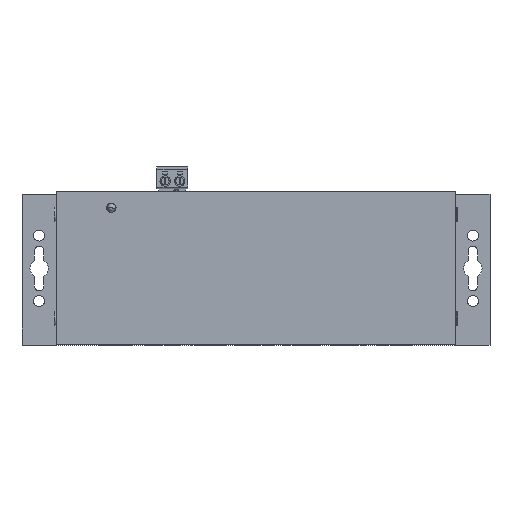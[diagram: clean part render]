
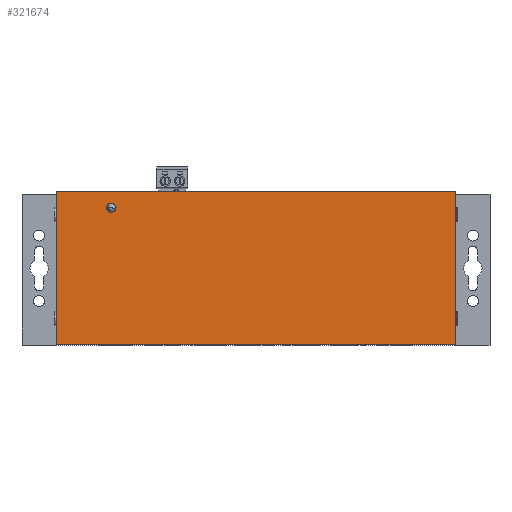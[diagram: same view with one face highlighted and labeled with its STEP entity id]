
A CAD part, top view. The second image highlights one B-rep face of the part: STEP entity #321674.
In plain terms, the highlighted planar face has unit normal (0, 0, 1).
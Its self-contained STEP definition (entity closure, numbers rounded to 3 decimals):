
#9240 = PLANE('',#9241);
#9241 = AXIS2_PLACEMENT_3D('',#9242,#9243,#9244);
#9242 = CARTESIAN_POINT('',(13.,29.602,11.952));
#9243 = DIRECTION('',(-1.,-0.,-0.));
#9244 = DIRECTION('',(0.,0.,-1.));
#280623 = PLANE('',#280624);
#280624 = AXIS2_PLACEMENT_3D('',#280625,#280626,#280627);
#280625 = CARTESIAN_POINT('',(0.,58.5,0.));
#280626 = DIRECTION('',(0.,1.,0.));
#280627 = DIRECTION('',(0.,0.,1.));
#281786 = CYLINDRICAL_SURFACE('',#281787,1.8);
#281787 = AXIS2_PLACEMENT_3D('',#281788,#281789,#281790);
#281788 = CARTESIAN_POINT('',(34.05,52.3,19.));
#281789 = DIRECTION('',(0.,0.,1.));
#281790 = DIRECTION('',(1.,0.,0.));
#281961 = PLANE('',#281962);
#281962 = AXIS2_PLACEMENT_3D('',#281963,#281964,#281965);
#281963 = CARTESIAN_POINT('',(89.2,0.,10.168));
#281964 = DIRECTION('',(-0.,-1.,-0.));
#281965 = DIRECTION('',(0.,0.,-1.));
#309637 = VERTEX_POINT('',#309638);
#309638 = CARTESIAN_POINT('',(165.4,58.5,23.2));
#309652 = PLANE('',#309653);
#309653 = AXIS2_PLACEMENT_3D('',#309654,#309655,#309656);
#309654 = CARTESIAN_POINT('',(165.4,29.602,11.952));
#309655 = DIRECTION('',(1.,0.,0.));
#309656 = DIRECTION('',(0.,0.,1.));
#309688 = VERTEX_POINT('',#309689);
#309689 = CARTESIAN_POINT('',(13.,58.5,23.2));
#309710 = EDGE_CURVE('',#309688,#309637,#309711,.T.);
#309711 = SURFACE_CURVE('',#309712,(#309716,#309723),.PCURVE_S1.);
#309712 = LINE('',#309713,#309714);
#309713 = CARTESIAN_POINT('',(0.,58.5,23.2));
#309714 = VECTOR('',#309715,1.);
#309715 = DIRECTION('',(1.,0.,0.));
#309716 = PCURVE('',#280623,#309717);
#309717 = DEFINITIONAL_REPRESENTATION('',(#309718),#309722);
#309718 = LINE('',#309719,#309720);
#309719 = CARTESIAN_POINT('',(23.2,0.));
#309720 = VECTOR('',#309721,1.);
#309721 = DIRECTION('',(0.,1.));
#309722 = ( GEOMETRIC_REPRESENTATION_CONTEXT(2) 
PARAMETRIC_REPRESENTATION_CONTEXT() REPRESENTATION_CONTEXT('2D SPACE',''
  ) );
#309723 = PCURVE('',#309724,#309729);
#309724 = PLANE('',#309725);
#309725 = AXIS2_PLACEMENT_3D('',#309726,#309727,#309728);
#309726 = CARTESIAN_POINT('',(0.,0.,23.2));
#309727 = DIRECTION('',(0.,0.,1.));
#309728 = DIRECTION('',(1.,0.,0.));
#309729 = DEFINITIONAL_REPRESENTATION('',(#309730),#309734);
#309730 = LINE('',#309731,#309732);
#309731 = CARTESIAN_POINT('',(0.,58.5));
#309732 = VECTOR('',#309733,1.);
#309733 = DIRECTION('',(1.,0.));
#309734 = ( GEOMETRIC_REPRESENTATION_CONTEXT(2) 
PARAMETRIC_REPRESENTATION_CONTEXT() REPRESENTATION_CONTEXT('2D SPACE',''
  ) );
#311741 = EDGE_CURVE('',#311742,#311742,#311744,.T.);
#311742 = VERTEX_POINT('',#311743);
#311743 = CARTESIAN_POINT('',(35.85,52.3,23.2));
#311744 = SURFACE_CURVE('',#311745,(#311750,#311757),.PCURVE_S1.);
#311745 = CIRCLE('',#311746,1.8);
#311746 = AXIS2_PLACEMENT_3D('',#311747,#311748,#311749);
#311747 = CARTESIAN_POINT('',(34.05,52.3,23.2));
#311748 = DIRECTION('',(0.,0.,1.));
#311749 = DIRECTION('',(1.,0.,0.));
#311750 = PCURVE('',#281786,#311751);
#311751 = DEFINITIONAL_REPRESENTATION('',(#311752),#311756);
#311752 = LINE('',#311753,#311754);
#311753 = CARTESIAN_POINT('',(0.,4.2));
#311754 = VECTOR('',#311755,1.);
#311755 = DIRECTION('',(1.,0.));
#311756 = ( GEOMETRIC_REPRESENTATION_CONTEXT(2) 
PARAMETRIC_REPRESENTATION_CONTEXT() REPRESENTATION_CONTEXT('2D SPACE',''
  ) );
#311757 = PCURVE('',#309724,#311758);
#311758 = DEFINITIONAL_REPRESENTATION('',(#311759),#311763);
#311759 = CIRCLE('',#311760,1.8);
#311760 = AXIS2_PLACEMENT_2D('',#311761,#311762);
#311761 = CARTESIAN_POINT('',(34.05,52.3));
#311762 = DIRECTION('',(1.,0.));
#311763 = ( GEOMETRIC_REPRESENTATION_CONTEXT(2) 
PARAMETRIC_REPRESENTATION_CONTEXT() REPRESENTATION_CONTEXT('2D SPACE',''
  ) );
#320831 = VERTEX_POINT('',#320832);
#320832 = CARTESIAN_POINT('',(165.4,0.,23.2));
#320931 = EDGE_CURVE('',#320831,#309637,#320932,.T.);
#320932 = SURFACE_CURVE('',#320933,(#320937,#320944),.PCURVE_S1.);
#320933 = LINE('',#320934,#320935);
#320934 = CARTESIAN_POINT('',(165.4,0.,23.2));
#320935 = VECTOR('',#320936,1.);
#320936 = DIRECTION('',(0.,1.,0.));
#320937 = PCURVE('',#309652,#320938);
#320938 = DEFINITIONAL_REPRESENTATION('',(#320939),#320943);
#320939 = LINE('',#320940,#320941);
#320940 = CARTESIAN_POINT('',(11.248,29.602));
#320941 = VECTOR('',#320942,1.);
#320942 = DIRECTION('',(0.,-1.));
#320943 = ( GEOMETRIC_REPRESENTATION_CONTEXT(2) 
PARAMETRIC_REPRESENTATION_CONTEXT() REPRESENTATION_CONTEXT('2D SPACE',''
  ) );
#320944 = PCURVE('',#309724,#320945);
#320945 = DEFINITIONAL_REPRESENTATION('',(#320946),#320949);
#320946 = B_SPLINE_CURVE_WITH_KNOTS('',1,(#320947,#320948),
  .UNSPECIFIED.,.F.,.F.,(2,2),(-5.85,64.35),.PIECEWISE_BEZIER_KNOTS.);
#320947 = CARTESIAN_POINT('',(165.4,-5.85));
#320948 = CARTESIAN_POINT('',(165.4,64.35));
#320949 = ( GEOMETRIC_REPRESENTATION_CONTEXT(2) 
PARAMETRIC_REPRESENTATION_CONTEXT() REPRESENTATION_CONTEXT('2D SPACE',''
  ) );
#321674 = ADVANCED_FACE('',(#321675,#321722),#309724,.T.);
#321675 = FACE_BOUND('',#321676,.T.);
#321676 = EDGE_LOOP('',(#321677,#321678,#321700,#321721));
#321677 = ORIENTED_EDGE('',*,*,#309710,.F.);
#321678 = ORIENTED_EDGE('',*,*,#321679,.F.);
#321679 = EDGE_CURVE('',#321680,#309688,#321682,.T.);
#321680 = VERTEX_POINT('',#321681);
#321681 = CARTESIAN_POINT('',(13.,0.,23.2));
#321682 = SURFACE_CURVE('',#321683,(#321687,#321693),.PCURVE_S1.);
#321683 = LINE('',#321684,#321685);
#321684 = CARTESIAN_POINT('',(13.,0.,23.2));
#321685 = VECTOR('',#321686,1.);
#321686 = DIRECTION('',(0.,1.,0.));
#321687 = PCURVE('',#309724,#321688);
#321688 = DEFINITIONAL_REPRESENTATION('',(#321689),#321692);
#321689 = B_SPLINE_CURVE_WITH_KNOTS('',1,(#321690,#321691),
  .UNSPECIFIED.,.F.,.F.,(2,2),(-5.85,64.35),.PIECEWISE_BEZIER_KNOTS.);
#321690 = CARTESIAN_POINT('',(13.,-5.85));
#321691 = CARTESIAN_POINT('',(13.,64.35));
#321692 = ( GEOMETRIC_REPRESENTATION_CONTEXT(2) 
PARAMETRIC_REPRESENTATION_CONTEXT() REPRESENTATION_CONTEXT('2D SPACE',''
  ) );
#321693 = PCURVE('',#9240,#321694);
#321694 = DEFINITIONAL_REPRESENTATION('',(#321695),#321699);
#321695 = LINE('',#321696,#321697);
#321696 = CARTESIAN_POINT('',(-11.248,29.602));
#321697 = VECTOR('',#321698,1.);
#321698 = DIRECTION('',(0.,-1.));
#321699 = ( GEOMETRIC_REPRESENTATION_CONTEXT(2) 
PARAMETRIC_REPRESENTATION_CONTEXT() REPRESENTATION_CONTEXT('2D SPACE',''
  ) );
#321700 = ORIENTED_EDGE('',*,*,#321701,.T.);
#321701 = EDGE_CURVE('',#321680,#320831,#321702,.T.);
#321702 = SURFACE_CURVE('',#321703,(#321707,#321714),.PCURVE_S1.);
#321703 = LINE('',#321704,#321705);
#321704 = CARTESIAN_POINT('',(0.,0.,23.2));
#321705 = VECTOR('',#321706,1.);
#321706 = DIRECTION('',(1.,0.,0.));
#321707 = PCURVE('',#309724,#321708);
#321708 = DEFINITIONAL_REPRESENTATION('',(#321709),#321713);
#321709 = LINE('',#321710,#321711);
#321710 = CARTESIAN_POINT('',(0.,0.));
#321711 = VECTOR('',#321712,1.);
#321712 = DIRECTION('',(1.,0.));
#321713 = ( GEOMETRIC_REPRESENTATION_CONTEXT(2) 
PARAMETRIC_REPRESENTATION_CONTEXT() REPRESENTATION_CONTEXT('2D SPACE',''
  ) );
#321714 = PCURVE('',#281961,#321715);
#321715 = DEFINITIONAL_REPRESENTATION('',(#321716),#321720);
#321716 = LINE('',#321717,#321718);
#321717 = CARTESIAN_POINT('',(-13.032,-89.2));
#321718 = VECTOR('',#321719,1.);
#321719 = DIRECTION('',(0.,1.));
#321720 = ( GEOMETRIC_REPRESENTATION_CONTEXT(2) 
PARAMETRIC_REPRESENTATION_CONTEXT() REPRESENTATION_CONTEXT('2D SPACE',''
  ) );
#321721 = ORIENTED_EDGE('',*,*,#320931,.T.);
#321722 = FACE_BOUND('',#321723,.T.);
#321723 = EDGE_LOOP('',(#321724));
#321724 = ORIENTED_EDGE('',*,*,#311741,.F.);
